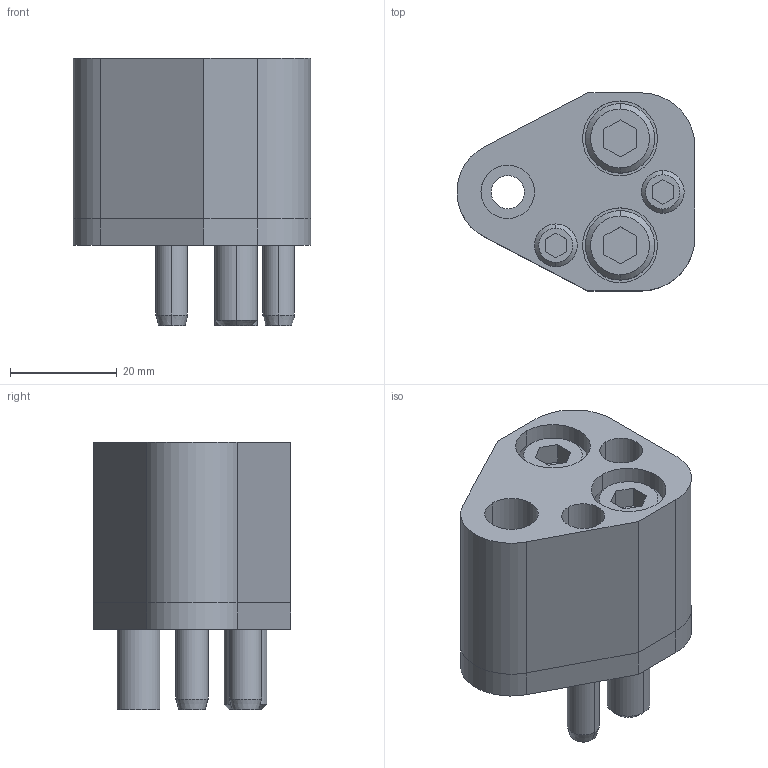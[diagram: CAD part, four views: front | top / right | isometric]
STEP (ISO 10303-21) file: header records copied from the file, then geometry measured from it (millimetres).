
FILE_DESCRIPTION(/* description */ (''),/* implementation_level */ '2;1');
FILE_NAME(/* name */ '3d_fp-ap10_02886_r00.stp',/* time_stamp */ '2011-01-10T14:15:36+09:00',/* author */ ('MISUMI'),/* organization */ (''),/* preprocessor_version */ 'ST-DEVELOPER v11',/* originating_system */ 'UGS - NX 5.0',/* authorisation */ '');
FILE_SCHEMA (('CONFIG_CONTROL_DESIGN'));
Length unit declared in the file: millimetre
Products named in the file (1): 3d_fp-ap10_02886_r00
Bounding box: 44.47 x 37 x 50 mm (x, y, z)
Volume: 40206.9 mm3; surface area: 19159.8 mm2
Topology: 8 solids, 8 shells, 153 faces, 342 edges, 220 vertices
Faces by surface type: plane 67, cylinder 62, cone 24
Entity records: 4424 total; most frequent: DIRECTION 794, CARTESIAN_POINT 764, ORIENTED_EDGE 684, EDGE_CURVE 342, AXIS2_PLACEMENT_3D 302, VERTEX_POINT 220, LINE 190, VECTOR 190
